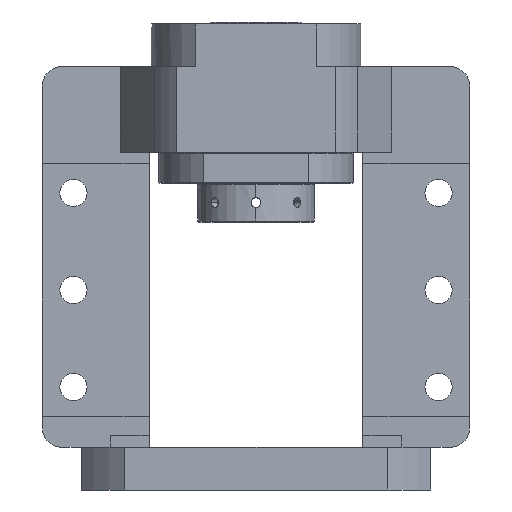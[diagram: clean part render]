
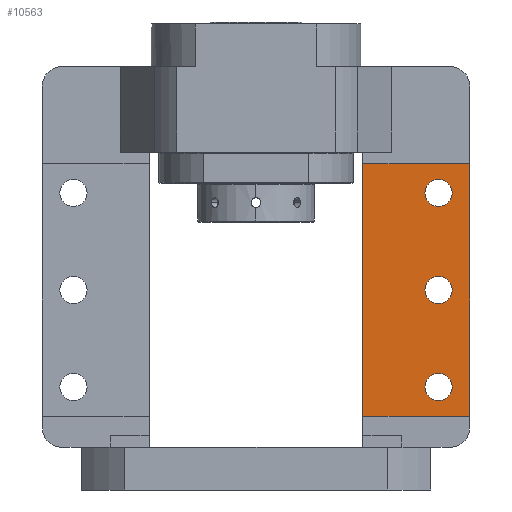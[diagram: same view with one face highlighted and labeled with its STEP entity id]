
A CAD part, front view. The second image highlights one B-rep face of the part: STEP entity #10563.
In plain terms, the highlighted planar face has unit normal (0, -1, 0).
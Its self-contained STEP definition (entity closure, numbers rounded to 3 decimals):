
#575 = LINE ( 'NONE', #2253, #12268 ) ;
#1354 = FACE_BOUND ( 'NONE', #29606, .T. ) ;
#1434 = ORIENTED_EDGE ( 'NONE', *, *, #12918, .F. ) ;
#1954 = DIRECTION ( 'NONE',  ( 0., -1., 0. ) ) ;
#2205 = EDGE_CURVE ( 'NONE', #9798, #5512, #29718, .T. ) ;
#2253 = CARTESIAN_POINT ( 'NONE',  ( 110., 0., 225. ) ) ;
#2309 = CIRCLE ( 'NONE', #29420, 7. ) ;
#2559 = CARTESIAN_POINT ( 'NONE',  ( 94., 0., 96. ) ) ;
#2916 = CIRCLE ( 'NONE', #18098, 7. ) ;
#3250 = CARTESIAN_POINT ( 'NONE',  ( 94., 0., 153. ) ) ;
#3805 = DIRECTION ( 'NONE',  ( 0., 0., -1. ) ) ;
#3934 = AXIS2_PLACEMENT_3D ( 'NONE', #27010, #12943, #29368 ) ;
#4063 = EDGE_CURVE ( 'NONE', #27111, #15220, #18342, .T. ) ;
#4277 = VECTOR ( 'NONE', #22096, 1000. ) ;
#4431 = EDGE_CURVE ( 'NONE', #27009, #9262, #2916, .T. ) ;
#5512 = VERTEX_POINT ( 'NONE', #22985 ) ;
#5612 = DIRECTION ( 'NONE',  ( 0., 0., -1. ) ) ;
#5880 = DIRECTION ( 'NONE',  ( 0., -1., 0. ) ) ;
#5957 = CARTESIAN_POINT ( 'NONE',  ( 94., 0., 46. ) ) ;
#6204 = CARTESIAN_POINT ( 'NONE',  ( 110., 0., 225. ) ) ;
#6391 = AXIS2_PLACEMENT_3D ( 'NONE', #6585, #23013, #8893 ) ;
#6585 = CARTESIAN_POINT ( 'NONE',  ( 94., 0., 103. ) ) ;
#6723 = DIRECTION ( 'NONE',  ( 0., -1., 0. ) ) ;
#6960 = CARTESIAN_POINT ( 'NONE',  ( 55., 0., 168. ) ) ;
#7107 = ORIENTED_EDGE ( 'NONE', *, *, #27994, .F. ) ;
#7609 = EDGE_LOOP ( 'NONE', ( #1434, #10102 ) ) ;
#7905 = CARTESIAN_POINT ( 'NONE',  ( 110., 0., 38. ) ) ;
#8522 = DIRECTION ( 'NONE',  ( 0., -1., 0. ) ) ;
#8731 = AXIS2_PLACEMENT_3D ( 'NONE', #3250, #19670, #5612 ) ;
#8792 = CARTESIAN_POINT ( 'NONE',  ( 110., 0., 168. ) ) ;
#8893 = DIRECTION ( 'NONE',  ( 0., 0., -1. ) ) ;
#9262 = VERTEX_POINT ( 'NONE', #5957 ) ;
#9798 = VERTEX_POINT ( 'NONE', #6960 ) ;
#9810 = CARTESIAN_POINT ( 'NONE',  ( 94., 0., 110. ) ) ;
#10102 = ORIENTED_EDGE ( 'NONE', *, *, #19032, .F. ) ;
#10225 = VECTOR ( 'NONE', #3805, 1000. ) ;
#10563 = ADVANCED_FACE ( 'NONE', ( #24823, #1354, #18614, #12326 ), #15518, .T. ) ;
#11615 = EDGE_CURVE ( 'NONE', #5512, #27641, #16748, .T. ) ;
#12100 = VECTOR ( 'NONE', #18282, 1000. ) ;
#12268 = VECTOR ( 'NONE', #16177, 1000. ) ;
#12326 = FACE_OUTER_BOUND ( 'NONE', #12356, .T. ) ;
#12356 = EDGE_LOOP ( 'NONE', ( #26686, #30093, #25366, #22702 ) ) ;
#12737 = VERTEX_POINT ( 'NONE', #22658 ) ;
#12918 = EDGE_CURVE ( 'NONE', #17437, #12737, #28430, .T. ) ;
#12943 = DIRECTION ( 'NONE',  ( 0., -1., 0. ) ) ;
#12993 = ORIENTED_EDGE ( 'NONE', *, *, #4431, .F. ) ;
#13182 = EDGE_CURVE ( 'NONE', #17012, #27641, #575, .T. ) ;
#14580 = EDGE_LOOP ( 'NONE', ( #7107, #23093 ) ) ;
#15137 = CARTESIAN_POINT ( 'NONE',  ( 94., 0., 146. ) ) ;
#15220 = VERTEX_POINT ( 'NONE', #2559 ) ;
#15518 = PLANE ( 'NONE',  #24808 ) ;
#15970 = CARTESIAN_POINT ( 'NONE',  ( 94., 0., 153. ) ) ;
#16177 = DIRECTION ( 'NONE',  ( 0., 0., -1. ) ) ;
#16748 = LINE ( 'NONE', #7905, #4277 ) ;
#17012 = VERTEX_POINT ( 'NONE', #23573 ) ;
#17437 = VERTEX_POINT ( 'NONE', #15137 ) ;
#17638 = CIRCLE ( 'NONE', #6391, 7. ) ;
#17772 = AXIS2_PLACEMENT_3D ( 'NONE', #15970, #1954, #18350 ) ;
#18098 = AXIS2_PLACEMENT_3D ( 'NONE', #20784, #6723, #23142 ) ;
#18282 = DIRECTION ( 'NONE',  ( -1., 0., 0. ) ) ;
#18342 = CIRCLE ( 'NONE', #3934, 7. ) ;
#18350 = DIRECTION ( 'NONE',  ( 0., 0., -1. ) ) ;
#18614 = FACE_BOUND ( 'NONE', #14580, .T. ) ;
#19032 = EDGE_CURVE ( 'NONE', #12737, #17437, #25737, .T. ) ;
#19128 = LINE ( 'NONE', #8792, #12100 ) ;
#19670 = DIRECTION ( 'NONE',  ( 0., -1., 0. ) ) ;
#19933 = CARTESIAN_POINT ( 'NONE',  ( 94., 0., 53. ) ) ;
#20121 = CARTESIAN_POINT ( 'NONE',  ( 110., 0., 38. ) ) ;
#20784 = CARTESIAN_POINT ( 'NONE',  ( 94., 0., 53. ) ) ;
#22096 = DIRECTION ( 'NONE',  ( 1., 0., 0. ) ) ;
#22193 = EDGE_CURVE ( 'NONE', #9262, #27009, #2309, .T. ) ;
#22298 = DIRECTION ( 'NONE',  ( 0., 0., -1. ) ) ;
#22597 = CARTESIAN_POINT ( 'NONE',  ( 55., 0., 225. ) ) ;
#22658 = CARTESIAN_POINT ( 'NONE',  ( 94., 0., 160. ) ) ;
#22702 = ORIENTED_EDGE ( 'NONE', *, *, #11615, .T. ) ;
#22878 = ORIENTED_EDGE ( 'NONE', *, *, #22193, .F. ) ;
#22985 = CARTESIAN_POINT ( 'NONE',  ( 55., 0., 38. ) ) ;
#23013 = DIRECTION ( 'NONE',  ( 0., -1., 0. ) ) ;
#23093 = ORIENTED_EDGE ( 'NONE', *, *, #4063, .F. ) ;
#23142 = DIRECTION ( 'NONE',  ( 0., 0., -1. ) ) ;
#23573 = CARTESIAN_POINT ( 'NONE',  ( 110., 0., 168. ) ) ;
#24372 = EDGE_CURVE ( 'NONE', #17012, #9798, #19128, .T. ) ;
#24808 = AXIS2_PLACEMENT_3D ( 'NONE', #6204, #8522, #24971 ) ;
#24823 = FACE_BOUND ( 'NONE', #7609, .T. ) ;
#24971 = DIRECTION ( 'NONE',  ( 0., 0., -1. ) ) ;
#25366 = ORIENTED_EDGE ( 'NONE', *, *, #2205, .T. ) ;
#25737 = CIRCLE ( 'NONE', #8731, 7. ) ;
#26686 = ORIENTED_EDGE ( 'NONE', *, *, #13182, .F. ) ;
#27009 = VERTEX_POINT ( 'NONE', #28325 ) ;
#27010 = CARTESIAN_POINT ( 'NONE',  ( 94., 0., 103. ) ) ;
#27111 = VERTEX_POINT ( 'NONE', #9810 ) ;
#27641 = VERTEX_POINT ( 'NONE', #20121 ) ;
#27994 = EDGE_CURVE ( 'NONE', #15220, #27111, #17638, .T. ) ;
#28325 = CARTESIAN_POINT ( 'NONE',  ( 94., 0., 60. ) ) ;
#28430 = CIRCLE ( 'NONE', #17772, 7. ) ;
#29368 = DIRECTION ( 'NONE',  ( 0., 0., -1. ) ) ;
#29420 = AXIS2_PLACEMENT_3D ( 'NONE', #19933, #5880, #22298 ) ;
#29606 = EDGE_LOOP ( 'NONE', ( #22878, #12993 ) ) ;
#29718 = LINE ( 'NONE', #22597, #10225 ) ;
#30093 = ORIENTED_EDGE ( 'NONE', *, *, #24372, .T. ) ;
